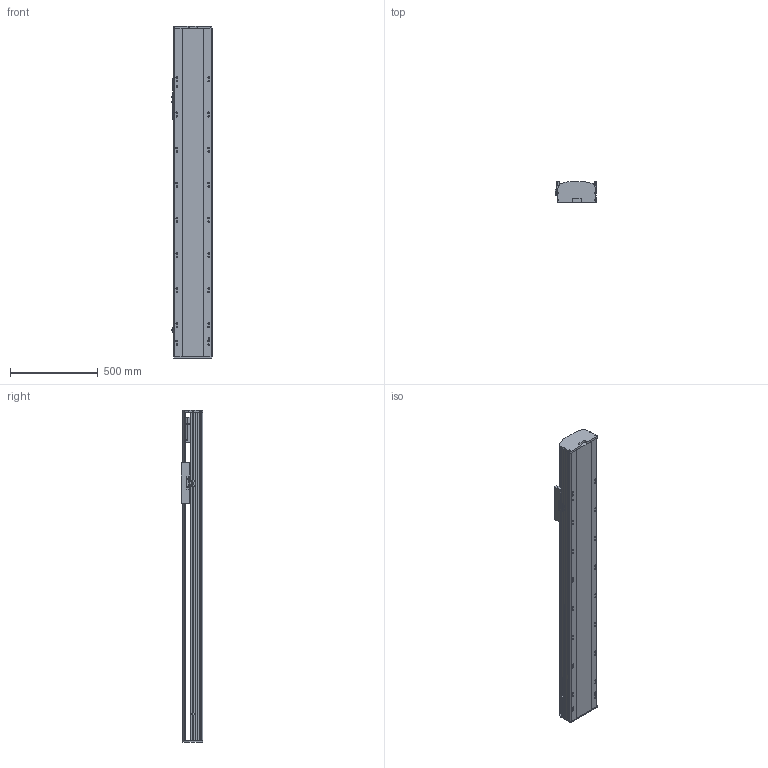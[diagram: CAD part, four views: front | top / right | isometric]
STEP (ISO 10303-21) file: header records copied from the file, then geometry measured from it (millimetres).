
FILE_DESCRIPTION (( 'STEP AP214' ), '1' );
FILE_NAME ('RTH22-XX-1300-B-M75-C4.STEP', '2025-10-24T10:34:38', ( 'Microsoft' ), ( 'Microsoft' ), 'SwSTEP 2.0', 'SolidWorks 2018', '' );
FILE_SCHEMA (( 'AUTOMOTIVE_DESIGN' ));
Length unit declared in the file: millimetre
Products named in the file (9): N_OMRON EE-SX672 传感器^RTH22-XX-XX-B-M75-C4; N_RTH22-GY-013外置感应片^RTH22-XX-XX-B-M75-C4; N_RTH22-B-008萇儂啣^RTH22-XX-XX-B-M75-C4; N_RTH22-B-011菁釱^RTH22-XX-XX-B-M75-C4; N_RTH22-B-007奻裔^RTH22-XX-XX-B-M75-C4; N_RTH22-GY-001耜裔^RTH22-XX-XX-B-M75-C4; N_750W萇儂^RTH22-XX-XX-B-M75-C4; RTH22-XX-1300-B-M75-C4; N_RTH22-E-004-SFS25賑釱^RTH22-XX-XX-B-M75-C4
Assembly tree (10 placements, depth 2):
  RTH22-XX-1300-B-M75-C4
    N_RTH22-B-011菁釱^RTH22-XX-XX-B-M75-C4
    N_RTH22-GY-001耜裔^RTH22-XX-XX-B-M75-C4
    N_750W萇儂^RTH22-XX-XX-B-M75-C4
    N_RTH22-B-008萇儂啣^RTH22-XX-XX-B-M75-C4
    N_RTH22-B-007奻裔^RTH22-XX-XX-B-M75-C4
    N_OMRON EE-SX672 传感器^RTH22-XX-XX-B-M75-C4  x3
    N_RTH22-GY-013外置感应片^RTH22-XX-XX-B-M75-C4
    N_RTH22-E-004-SFS25賑釱^RTH22-XX-XX-B-M75-C4
Bounding box: 238.5 x 122 x 1890 mm (x, y, z)
Volume: 24985185.5 mm3; surface area: 2561076.2 mm2
Topology: 10 solids, 10 shells, 1569 faces, 4300 edges, 2773 vertices
Faces by surface type: plane 758, cylinder 466, bspline 279, cone 66
Entity records: 39407 total; most frequent: CARTESIAN_POINT 12141, ORIENTED_EDGE 5560, DIRECTION 5258, EDGE_CURVE 2780, VERTEX_POINT 1809, AXIS2_PLACEMENT_3D 1786, LINE 1686, VECTOR 1686
